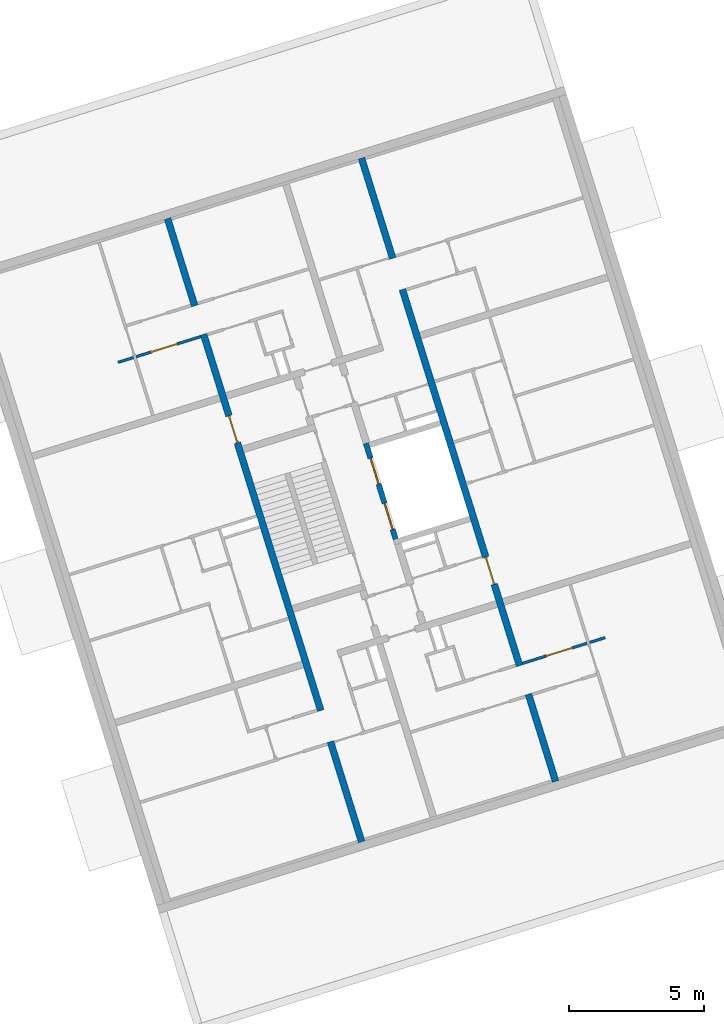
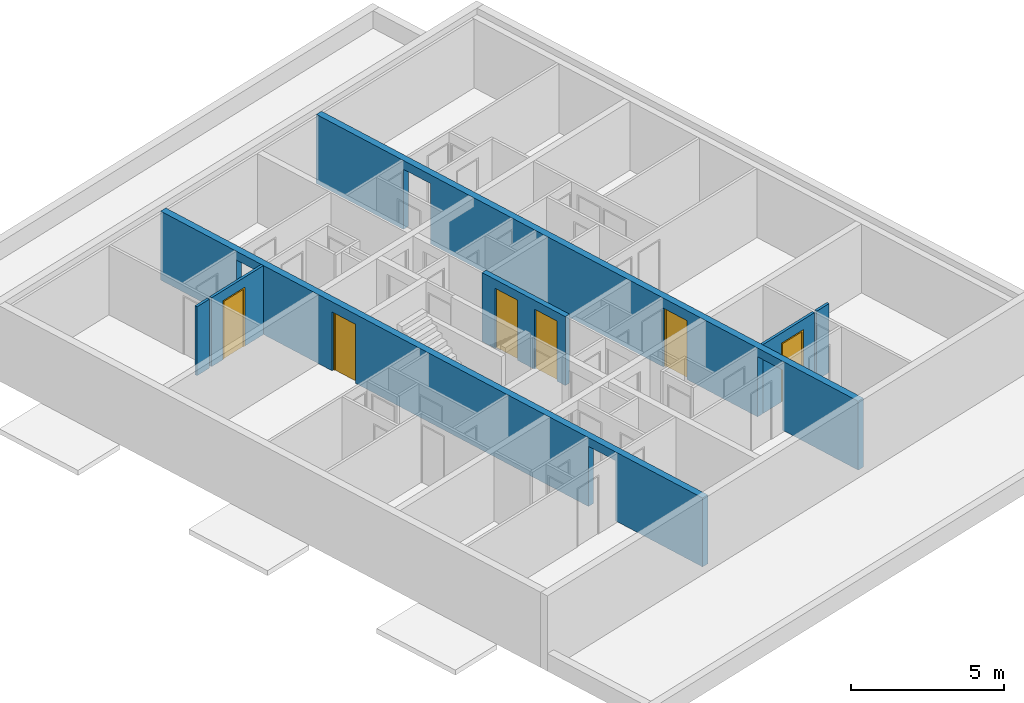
# One storey, part 8 of 9: 6 doors, 5 walls, 12 openings.
"""IFC4 building model written with IfcOpenShell, lengths in metres."""

from ifc_helpers import new_model, entity, si_unit, converted_unit, direction, frame, origin, place, context, subcontext, project, spatial, indexed_curve, outline, extrude, polygons, source, transform, mapped, material, constituent, constituent_set, type_object, type_shapes, element, fill, save


model = new_model("IFC4")

# Units and contexts
model_context = context("Model", 3, precision=1e-05, world=origin(), true_north=direction((6.12323399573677e-17, 1.0)))
body_context = subcontext(model_context, "Body", "Model", "MODEL_VIEW")
ifc_project = project(units=[si_unit("LENGTHUNIT", "METRE"), si_unit("AREAUNIT", "SQUARE_METRE"), converted_unit("PLANEANGLEUNIT", "DEGREE", entity("IfcPlaneAngleMeasure", 0.0174532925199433), si_unit("PLANEANGLEUNIT", "RADIAN"), dimensions=[0, 0, 0, 0, 0, 0, 0]), si_unit("VOLUMEUNIT", "CUBIC_METRE")], contexts=[model_context])

# Site, building, storey
site_placement = place(None, frame((13.1347999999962, 11.9886000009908, 0.0), z_axis=(0.0, 0.0, 1.0), x_axis=(0.954770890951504, 0.297342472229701, 0.0)))
site = spatial("IfcSite", under=ifc_project, at=site_placement, Name="Schiehaven", CompositionType="ELEMENT")
building_placement = place(site_placement, origin())
building = spatial("IfcBuilding", under=site, at=building_placement, Name="VORM huis", CompositionType="ELEMENT")
storey_placement = place(building_placement, frame((0.0, 0.0, 6.9)))
storey = spatial("IfcBuildingStorey", under=building, at=storey_placement, Name="02 tweede verdieping", CompositionType="ELEMENT", Elevation=6.9)

# Wall, openings, door
ifc_material_1 = material(Name="beton_gewapend_ihw", Category="Miscellaneous")
wall_type_1 = type_object("IfcWallType", Name="Basic Wall:28_WA_skelet_wand 250mm_gen", PredefinedType="STANDARD")
wall_1_placement = place(storey_placement, frame((72.5, 5.0, 0.0), z_axis=(0.0, 0.0, 1.0), x_axis=(0.0, 1.0, 0.0)))
wall_1 = element("IfcWall", 1, at=wall_1_placement, inside=storey, type_object=wall_type_1, material=ifc_material_1, Name="Constructieve wand", ObjectType="Wand", PredefinedType="NOTDEFINED", context=body_context, shape_type="Tessellation", body=[
    polygons([(8.67499999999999, -0.125000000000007, 2.34999999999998), (8.67499999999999, -0.125000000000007, 1.08286712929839e-15), (19.0250000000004, -0.125000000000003, 1.08286712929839e-15), (19.0250000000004, -0.125000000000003, 2.4), (20.2250000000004, -0.125000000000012, 2.4), (20.2250000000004, -0.125000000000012, 1.08286712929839e-15), (24.1, -0.125000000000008, 1.08286712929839e-15), (24.1, -0.125000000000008, 2.75), (0.0, -0.125000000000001, 2.75), (1.08286712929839e-15, -0.125000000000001, 1.08286712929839e-15), (3.37500000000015, -0.125000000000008, 1.08286712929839e-15), (3.37500000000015, -0.125000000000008, 2.4), (4.47500000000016, -0.124999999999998, 2.4), (4.47500000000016, -0.124999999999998, 1.08286712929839e-15), (7.62499999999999, -0.125000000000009, 1.08286712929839e-15), (7.62499999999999, -0.125000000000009, 2.34999999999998), (19.0250000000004, 0.124999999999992, 1.08286712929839e-15), (8.675, 0.124999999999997, 1.08286712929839e-15), (8.675, 0.124999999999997, 2.34999999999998), (7.62499999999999, 0.125000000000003, 2.34999999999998), (7.62499999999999, 0.125000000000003, 1.08286712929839e-15), (7.025, 0.124999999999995, 0.0), (6.775, 0.12499999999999, 0.0), (4.47500000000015, 0.124999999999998, 1.08286712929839e-15), (4.47500000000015, 0.124999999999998, 2.4), (3.37500000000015, 0.124999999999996, 2.4), (3.37500000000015, 0.124999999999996, 1.08286712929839e-15), (2.16573425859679e-15, 0.124999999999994, 1.08286712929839e-15), (2.16573425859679e-15, 0.124999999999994, 2.75), (6.775, 0.12499999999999, 2.75), (7.025, 0.124999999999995, 2.75), (24.1, 0.124999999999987, 2.75), (24.1, 0.124999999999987, 1.08286712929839e-15), (20.2250000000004, 0.124999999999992, 1.08286712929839e-15), (20.2250000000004, 0.124999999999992, 2.4), (19.0250000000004, 0.124999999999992, 2.4)], [[[1, 2, 3, 4, 5, 6, 7, 8, 9, 10, 11, 12, 13, 14, 15, 16]], [[17, 18, 19, 20, 21, 22, 23, 24, 25, 26, 27, 28, 29, 30, 31, 32, 33, 34, 35, 36]], [[10, 28, 27, 11]], [[8, 7, 33, 32]], [[9, 8, 32, 31, 30, 29]], [[10, 9, 29, 28]], [[12, 26, 25, 13]], [[26, 12, 11, 27]], [[13, 25, 24, 14]], [[4, 36, 35, 5]], [[36, 4, 3, 17]], [[5, 35, 34, 6]], [[21, 20, 16, 15]], [[19, 18, 2, 1]], [[20, 19, 1, 16]], [[15, 14, 24, 23, 22, 21]], [[3, 2, 18, 17]], [[33, 7, 6, 34]]], closed=True),
])
opening_1_placement = place(wall_1_placement, origin())
element("IfcOpeningElement", 2, at=opening_1_placement, cuts=wall_1, Name="Constructieve wand", PredefinedType="OPENING", context=body_context, shape_type="SweptSolid", body=[
    extrude(outline(indexed_curve([(-1.2, -0.550000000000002), (1.2, -0.550000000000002), (1.2, 0.550000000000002), (-1.2, 0.550000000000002), (-1.2, -0.550000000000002)], self_intersect=False)), frame((3.92500000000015, -0.124999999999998, 1.2), z_axis=(0.0, 1.0, 0.0), x_axis=(0.0, 0.0, -1.0)), (0.0, 0.0, 1.0), 0.249999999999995),
])
opening_2_placement = place(wall_1_placement, origin())
element("IfcOpeningElement", 3, at=opening_2_placement, cuts=wall_1, Name="Constructieve wand", PredefinedType="OPENING", context=body_context, shape_type="SweptSolid", body=[
    extrude(outline(indexed_curve([(-1.2, -0.599999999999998), (1.2, -0.599999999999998), (1.2, 0.599999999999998), (-1.2, 0.599999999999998), (-1.2, -0.599999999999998)], self_intersect=False)), frame((19.6250000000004, -0.125000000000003, 1.2), z_axis=(0.0, 1.0, 0.0), x_axis=(0.0, 0.0, -1.0)), (0.0, 0.0, 1.0), 0.249999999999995),
])
opening_3_placement = place(wall_1_placement, frame((7.62499999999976, -0.124999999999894, 0.0)))
opening_3 = element("IfcOpeningElement", 4, at=opening_3_placement, cuts=wall_1, Name="Binnendeur", PredefinedType="OPENING", context=body_context, shape_type="SweptSolid", body=[
    extrude(outline(indexed_curve([(2.34999999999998, 1.08286712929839e-15), (2.34999999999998, 1.05), (0.0, 1.05), (0.0, 1.08286712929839e-15), (2.34999999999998, 1.08286712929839e-15)], self_intersect=False)), frame((0.0, 0.0, 0.0), z_axis=(0.0, 1.0, 0.0), x_axis=(0.0, 0.0, 1.0)), (0.0, 0.0, 1.0), 0.25),
])
ifc_material_2 = material(Name="PD_a_binnenwandopeningen", Category="Miscellaneous")
ifc_constituent_1 = constituent(ifc_material_2, Name="PD_a_binnenwandopeningen", Category="Miscellaneous")
ifc_material_3 = material(Name="metaal_aluminium_ntb", Category="Miscellaneous")
ifc_constituent_2 = constituent(ifc_material_3, Name="metaal_aluminium_ntb", Category="Miscellaneous")
ifc_constituent_set_1 = constituent_set(constituents=[ifc_constituent_1, ifc_constituent_2])
ifc_constituent_3 = constituent(ifc_material_2, Name="PD_a_binnenwandopeningen", Category="Miscellaneous")
ifc_constituent_4 = constituent(ifc_material_3, Name="Panel", Category="Miscellaneous")
ifc_constituent_set_2 = constituent_set(constituents=[ifc_constituent_3, ifc_constituent_4])
door_type_1 = type_object("IfcDoorType", Name="32_DO_binnendeur enkel:binnendeur", OperationType="REVOLVING", PredefinedType="DOOR", material=ifc_constituent_set_2)
shared_shape_1 = source(origin(), body_context, "Body", "SweptSolid", [
    extrude(outline(indexed_curve([(0.475, -1.16249999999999), (0.525000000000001, -1.16249999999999), (0.525000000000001, 1.18749999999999), (-0.525000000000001, 1.18749999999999), (-0.525000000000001, -1.16249999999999), (-0.475, -1.16249999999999), (-0.475, 1.13749999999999), (0.475, 1.13749999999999), (0.475, -1.16249999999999)], self_intersect=False)), frame((0.525000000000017, 0.174999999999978, 1.16249999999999), z_axis=(0.0, -1.0, 0.0), x_axis=(1.0, 0.0, 0.0)), (0.0, 0.0, 1.0), 0.1),
    extrude(outline(indexed_curve([(-0.475, -0.025), (0.475, -0.025), (0.475, 0.025), (-0.475, 0.025), (-0.475, -0.025)], self_intersect=False)), frame((0.525000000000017, 0.12499999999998, 0.0)), (0.0, 0.0, 1.0), 2.29999999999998),
])
type_shapes(door_type_1, [shared_shape_1])
door_1_placement = place(opening_3_placement, origin())
door_1 = element("IfcDoor", 5, at=door_1_placement, inside=storey, type_object=door_type_1, material=ifc_constituent_set_1, Name="Binnendeur", ObjectType="Deur", OperationType="REVOLVING", OverallHeight=2.34999999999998, OverallWidth=1.05, PredefinedType="DOOR", context=body_context, shape_type="MappedRepresentation", body=[
    mapped(shared_shape_1, transform((0.0, 0.0, 0.0), scale=1.0)),
])
fill(opening_3, door_1)

wall_2_placement = place(storey_placement, frame((65.0, 29.0999999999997, 0.0), z_axis=(0.0, 0.0, 1.0), x_axis=(0.0, -1.0, 0.0)))
wall_2 = element("IfcWall", 6, at=wall_2_placement, inside=storey, type_object=wall_type_1, material=ifc_material_1, Name="Constructieve wand", ObjectType="Wand", PredefinedType="NOTDEFINED", context=body_context, shape_type="Tessellation", body=[
    polygons([(8.67499999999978, -0.125000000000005, 2.34999999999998), (8.67499999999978, -0.125000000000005, 1.08286712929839e-15), (19.0249999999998, -0.125000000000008, 1.08286712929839e-15), (19.0249999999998, -0.125000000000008, 2.4), (20.2249999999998, -0.125000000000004, 2.4), (20.2249999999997, -0.125000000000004, 1.08286712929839e-15), (24.1, -0.125000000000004, 1.08286712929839e-15), (24.1, -0.125000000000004, 2.75), (4.33146851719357e-15, -0.124999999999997, 2.75), (4.33146851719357e-15, -0.124999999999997, 1.08286712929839e-15), (3.37499999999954, -0.125000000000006, 1.08286712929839e-15), (3.37499999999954, -0.125000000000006, 2.4), (4.47499999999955, -0.125000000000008, 2.4), (4.47499999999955, -0.125000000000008, 1.08286712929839e-15), (7.62499999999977, -0.124999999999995, 1.08286712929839e-15), (7.62499999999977, -0.124999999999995, 2.34999999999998), (19.0249999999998, 0.124999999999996, 1.08286712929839e-15), (8.67499999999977, 0.124999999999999, 1.08286712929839e-15), (8.67499999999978, 0.124999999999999, 2.34999999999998), (7.62499999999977, 0.125, 2.34999999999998), (7.62499999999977, 0.125, 1.08286712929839e-15), (7.02500000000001, 0.124999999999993, 0.0), (6.77500000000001, 0.124999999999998, 0.0), (4.47499999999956, 0.124999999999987, 1.08286712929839e-15), (4.47499999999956, 0.124999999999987, 2.4), (3.37499999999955, 0.124999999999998, 2.4), (3.37499999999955, 0.124999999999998, 1.08286712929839e-15), (0.0, 0.124999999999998, 1.08286712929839e-15), (0.0, 0.124999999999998, 2.75), (6.77500000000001, 0.124999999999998, 2.75), (7.02500000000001, 0.124999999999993, 2.75), (24.1, 0.125, 2.75), (24.1, 0.125, 1.08286712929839e-15), (20.2249999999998, 0.125, 1.08286712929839e-15), (20.2249999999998, 0.125, 2.4), (19.0249999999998, 0.124999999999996, 2.4)], [[[1, 2, 3, 4, 5, 6, 7, 8, 9, 10, 11, 12, 13, 14, 15, 16]], [[17, 18, 19, 20, 21, 22, 23, 24, 25, 26, 27, 28, 29, 30, 31, 32, 33, 34, 35, 36]], [[10, 28, 27, 11]], [[8, 7, 33, 32]], [[9, 8, 32, 31, 30, 29]], [[10, 9, 29, 28]], [[12, 26, 25, 13]], [[26, 12, 11, 27]], [[13, 25, 24, 14]], [[4, 36, 35, 5]], [[36, 4, 3, 17]], [[5, 35, 34, 6]], [[21, 20, 16, 15]], [[19, 18, 2, 1]], [[20, 19, 1, 16]], [[15, 14, 24, 23, 22, 21]], [[3, 2, 18, 17]], [[33, 7, 6, 34]]], closed=True),
])
opening_4_placement = place(wall_2_placement, origin())
element("IfcOpeningElement", 7, at=opening_4_placement, cuts=wall_2, Name="Constructieve wand", PredefinedType="OPENING", context=body_context, shape_type="SweptSolid", body=[
    extrude(outline(indexed_curve([(-1.2, -0.550000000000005), (1.2, -0.550000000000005), (1.2, 0.550000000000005), (-1.2, 0.550000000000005), (-1.2, -0.550000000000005)], self_intersect=False)), frame((3.92499999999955, -0.125000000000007, 1.2), z_axis=(0.0, 1.0, 0.0), x_axis=(0.0, 0.0, -1.0)), (0.0, 0.0, 1.0), 0.249999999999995),
])
opening_5_placement = place(wall_2_placement, origin())
element("IfcOpeningElement", 8, at=opening_5_placement, cuts=wall_2, Name="Constructieve wand", PredefinedType="OPENING", context=body_context, shape_type="SweptSolid", body=[
    extrude(outline(indexed_curve([(-1.2, -0.599999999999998), (1.2, -0.599999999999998), (1.2, 0.599999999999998), (-1.2, 0.599999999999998), (-1.2, -0.599999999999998)], self_intersect=False)), frame((19.6249999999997, -0.124999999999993, 1.2), z_axis=(0.0, 1.0, 0.0), x_axis=(0.0, 0.0, -1.0)), (0.0, 0.0, 1.0), 0.249999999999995),
])
opening_6_placement = place(wall_2_placement, frame((7.62499999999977, -0.125000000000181, 0.0)))
opening_6 = element("IfcOpeningElement", 9, at=opening_6_placement, cuts=wall_2, Name="Binnendeur", PredefinedType="OPENING", context=body_context, shape_type="SweptSolid", body=[
    extrude(outline(indexed_curve([(2.34999999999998, 2.56961408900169e-29), (2.34999999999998, 1.05), (0.0, 1.05), (0.0, 2.56961408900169e-29), (2.34999999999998, 2.56961408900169e-29)], self_intersect=False)), frame((0.0, 0.0, 0.0), z_axis=(0.0, 1.0, 0.0), x_axis=(0.0, 0.0, 1.0)), (0.0, 0.0, 1.0), 0.25),
])
ifc_constituent_5 = constituent(ifc_material_2, Name="PD_a_binnenwandopeningen", Category="Miscellaneous")
ifc_constituent_6 = constituent(ifc_material_3, Name="metaal_aluminium_ntb", Category="Miscellaneous")
ifc_constituent_set_3 = constituent_set(constituents=[ifc_constituent_5, ifc_constituent_6])
door_2_placement = place(opening_6_placement, origin())
door_2 = element("IfcDoor", 10, at=door_2_placement, inside=storey, type_object=door_type_1, material=ifc_constituent_set_3, Name="Binnendeur", ObjectType="Deur", OperationType="REVOLVING", OverallHeight=2.34999999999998, OverallWidth=1.05, PredefinedType="DOOR", context=body_context, shape_type="MappedRepresentation", body=[
    mapped(shared_shape_1, transform((0.0, 0.0, 0.0), scale=1.0)),
])
fill(opening_6, door_2)

# Wall, openings, doors
ifc_material_4 = material(Name="beton_gewapend_prefab-element", Category="Miscellaneous")
wall_type_2 = type_object("IfcWallType", Name="Basic Wall:28_WA_skelet_wand 200mm_gen", PredefinedType="STANDARD")
wall_3_placement = place(storey_placement, frame((69.5249999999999, 15.2999999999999, 0.0), z_axis=(0.0, 0.0, 1.0), x_axis=(0.0, 1.0, 0.0)))
wall_3 = element("IfcWall", 11, at=wall_3_placement, inside=storey, type_object=wall_type_2, material=ifc_material_4, Name="Constructieve wand", ObjectType="Wand", PredefinedType="NOTDEFINED", context=body_context, shape_type="Tessellation", body=[
    polygons([(3.70000000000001, -0.0999999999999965, 2.75), (3.50000000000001, -0.0999999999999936, 2.75), (2.16573425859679e-15, -0.0999999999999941, 2.75), (2.16573425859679e-15, -0.0999999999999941, 1.08286712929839e-15), (0.3749999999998, -0.0999999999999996, 1.08286712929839e-15), (0.3749999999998, -0.0999999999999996, 2.39999999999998), (1.3749999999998, -0.099999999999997, 2.39999999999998), (1.3749999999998, -0.099999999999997, 1.08286712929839e-15), (2.1249999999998, -0.100000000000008, 1.08286712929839e-15), (2.1249999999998, -0.0999999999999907, 2.39999999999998), (3.1249999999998, -0.0999999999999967, 2.39999999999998), (3.1249999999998, -0.0999999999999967, 1.08286712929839e-15), (3.50000000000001, -0.0999999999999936, 0.0), (3.70000000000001, -0.0999999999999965, 1.08286712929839e-15), (4.33146851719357e-15, 0.100000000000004, 2.75), (3.70000000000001, 0.0999999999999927, 2.75), (3.70000000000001, 0.0999999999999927, 1.08286712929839e-15), (3.1249999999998, 0.100000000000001, 1.08286712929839e-15), (3.1249999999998, 0.100000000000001, 2.39999999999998), (2.1249999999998, 0.0999999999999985, 2.39999999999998), (2.1249999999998, 0.0999999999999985, 1.08286712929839e-15), (1.3749999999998, 0.10000000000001, 1.08286712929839e-15), (1.3749999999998, 0.10000000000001, 2.39999999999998), (0.374999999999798, 0.0999999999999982, 2.39999999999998), (0.374999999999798, 0.0999999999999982, 1.08286712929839e-15), (4.33146851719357e-15, 0.100000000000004, 1.08286712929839e-15)], [[[1, 2, 3, 4, 5, 6, 7, 8, 9, 10, 11, 12, 13, 14]], [[15, 16, 17, 18, 19, 20, 21, 22, 23, 24, 25, 26]], [[5, 4, 26, 25]], [[3, 2, 1, 16, 15]], [[7, 23, 22, 8]], [[24, 6, 5, 25]], [[23, 7, 6, 24]], [[11, 19, 18, 12]], [[20, 10, 9, 21]], [[19, 11, 10, 20]], [[1, 14, 17, 16]], [[4, 3, 15, 26]], [[8, 22, 21, 9]], [[17, 14, 13, 12, 18]]], closed=True),
])
opening_7_placement = place(wall_3_placement, frame((-15.2999999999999, 69.5249999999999, 0.0), z_axis=(0.0, 0.0, 1.0), x_axis=(0.0, -1.0, 0.0)))
opening_7 = element("IfcOpeningElement", 12, at=opening_7_placement, cuts=wall_3, Name="Brandweerlift", PredefinedType="OPENING", context=body_context, shape_type="SweptSolid", body=[
    extrude(outline(indexed_curve([(-1.19999999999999, -0.500000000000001), (1.19999999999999, -0.500000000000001), (1.19999999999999, 0.499999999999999), (-1.19999999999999, 0.499999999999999), (-1.19999999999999, -0.500000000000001)], self_intersect=False)), frame((70.0126380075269, 16.1749999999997, 1.19999999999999), z_axis=(-1.0, 0.0, 0.0), x_axis=(0.0, 0.0, -1.0)), (0.0, 0.0, 1.0), 0.756310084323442),
])
opening_8_placement = place(wall_3_placement, frame((-15.2999999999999, 69.5249999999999, 0.0), z_axis=(0.0, 0.0, 1.0), x_axis=(0.0, -1.0, 0.0)))
opening_8 = element("IfcOpeningElement", 13, at=opening_8_placement, cuts=wall_3, Name="Brandweerlift", PredefinedType="OPENING", context=body_context, shape_type="SweptSolid", body=[
    extrude(outline(indexed_curve([(-1.19999999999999, -0.500000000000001), (1.19999999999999, -0.500000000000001), (1.19999999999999, 0.499999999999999), (-1.19999999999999, 0.499999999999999), (-1.19999999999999, -0.500000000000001)], self_intersect=False)), frame((70.0126380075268, 17.9249999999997, 1.19999999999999), z_axis=(-1.0, 0.0, 0.0), x_axis=(0.0, 0.0, -1.0)), (0.0, 0.0, 1.0), 0.756310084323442),
])
door_type_2 = type_object("IfcDoorType", Name="66_WI_liftdeur:brandweerlift - tweezijdig toegankelijk", OperationType="NOTDEFINED", PredefinedType="DOOR", material=ifc_material_3)
shared_shape_2 = source(origin(), body_context, "Body", "SweptSolid", [
    extrude(outline(indexed_curve([(-0.25, -0.0250000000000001), (0.25, -0.0249999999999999), (0.25, 0.0250000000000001), (-0.25, 0.0249999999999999), (-0.25, -0.0250000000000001)], self_intersect=False)), frame((0.750000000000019, -0.28763800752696, 0.0)), (0.0, 0.0, 1.0), 2.39999999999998),
    extrude(outline(indexed_curve([(-0.25, -0.0250000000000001), (0.25, -0.0249999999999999), (0.25, 0.0250000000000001), (-0.25, 0.0249999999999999), (-0.25, -0.0250000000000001)], self_intersect=False)), frame((0.250000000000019, -0.287638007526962, 0.0)), (0.0, 0.0, 1.0), 2.39999999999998),
])
type_shapes(door_type_2, [shared_shape_2])
door_3_placement = place(opening_7_placement, frame((69.2373619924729, 15.6749999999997, 0.0), z_axis=(0.0, 0.0, 1.0), x_axis=(0.0, 1.0, 0.0)))
door_3 = element("IfcDoor", 14, at=door_3_placement, inside=storey, type_object=door_type_2, material=ifc_material_3, Name="Brandweerlift", ObjectType="Transport", OperationType="NOTDEFINED", OverallHeight=2.39999999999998, OverallWidth=1.0, PredefinedType="DOOR", context=body_context, shape_type="MappedRepresentation", body=[
    mapped(shared_shape_2, transform((0.0, 0.0, 0.0), scale=1.0)),
])
fill(opening_7, door_3)
door_4_placement = place(opening_8_placement, frame((69.2373619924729, 17.4249999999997, 0.0), z_axis=(0.0, 0.0, 1.0), x_axis=(0.0, 1.0, 0.0)))
door_4 = element("IfcDoor", 15, at=door_4_placement, inside=storey, type_object=door_type_2, material=ifc_material_3, Name="Brandweerlift", ObjectType="Transport", OperationType="NOTDEFINED", OverallHeight=2.39999999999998, OverallWidth=1.0, PredefinedType="DOOR", context=body_context, shape_type="MappedRepresentation", body=[
    mapped(shared_shape_2, transform((0.0, 0.0, 0.0), scale=1.0)),
])
fill(opening_8, door_4)

# Wall, openings, door
ifc_material_5 = material(Name="ntb_ntb_ntb", Category="Miscellaneous")
wall_type_3 = type_object("IfcWallType", Name="Basic Wall:22_WA_afbouw_binnenwand 100mm_gen", PredefinedType="STANDARD")
wall_4_placement = place(storey_placement, frame((72.625, 9.52499999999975, 0.0)))
wall_4 = element("IfcWall", 16, at=wall_4_placement, inside=storey, type_object=wall_type_3, material=ifc_material_5, Name="Binnenwand", ObjectType="Wand", PredefinedType="NOTDEFINED", context=body_context, shape_type="Tessellation", body=[
    polygons([(-5.76685161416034e-15, -0.0500000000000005, 2.75), (-5.76685161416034e-15, -0.0500000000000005, 1.08286712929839e-15), (0.899999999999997, -0.0500000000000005, 1.08286712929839e-15), (0.899999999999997, -0.0500000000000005, 2.34999999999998), (1.95, -0.0500000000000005, 2.34999999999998), (1.95, -0.0500000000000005, 1.08286712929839e-15), (2.50000000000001, -0.0500000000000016, 1.08286712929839e-15), (2.50000000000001, -0.0500000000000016, 2.75), (-4.09055660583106e-15, 0.0499999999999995, 1.08286712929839e-15), (0.899999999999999, 0.0500000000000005, 1.08286712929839e-15), (-4.09055660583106e-15, 0.0499999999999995, 2.75), (1.95, 0.0500000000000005, 2.34999999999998), (1.95, 0.0500000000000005, 1.08286712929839e-15), (0.899999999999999, 0.0500000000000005, 2.34999999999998), (2.50000000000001, 0.0499999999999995, 1.08286712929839e-15), (2.50000000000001, 0.0499999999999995, 2.75)], [[[1, 2, 3, 4, 5, 6, 7, 8]], [[2, 9, 10, 3]], [[2, 1, 11, 9]], [[6, 5, 12, 13]], [[4, 3, 10, 14]], [[5, 4, 14, 12]], [[8, 7, 15, 16]], [[11, 1, 8, 16]], [[6, 13, 15, 7]], [[9, 11, 16, 15, 13, 12, 14, 10]]], closed=True),
    polygons([(3.20000000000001, 0.0499999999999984, 2.75), (3.20000000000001, 0.0499999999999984, 1.08286712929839e-15), (2.60000000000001, 0.0499999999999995, 1.08286712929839e-15), (2.60000000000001, 0.0499999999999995, 2.75), (3.20000000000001, -0.0500000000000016, 2.75), (3.20000000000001, -0.0500000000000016, 1.08286712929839e-15), (2.60000000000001, -0.0500000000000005, 2.75), (2.60000000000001, -0.0500000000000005, 1.08286712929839e-15)], [[[1, 2, 3, 4]], [[5, 6, 2, 1]], [[5, 1, 4, 7]], [[8, 7, 4, 3]], [[2, 6, 8, 3]], [[6, 5, 7, 8]]], closed=True),
])
opening_9_placement = place(storey_placement, frame((72.625, 9.52499999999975, 0.0)))
element("IfcOpeningElement", 17, at=opening_9_placement, cuts=wall_4, Name="Binnenwand:1", PredefinedType="OPENING", context=body_context, shape_type="SweptSolid", body=[
    extrude(outline(indexed_curve([(-1.375, -0.0500000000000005), (1.375, -0.0500000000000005), (1.375, 0.0500000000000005), (-1.375, 0.0499999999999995), (-1.375, -0.0500000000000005)], self_intersect=False)), frame((2.50000000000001, 0.0, 1.375), z_axis=(1.0, 0.0, 0.0), x_axis=(0.0, 0.0, -1.0)), (0.0, 0.0, 1.0), 0.100000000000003),
])
opening_10_placement = place(wall_4_placement, frame((1.95, 0.0500000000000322, 0.0)))
opening_10 = element("IfcOpeningElement", 18, at=opening_10_placement, cuts=wall_4, Name="Binnendeur", PredefinedType="OPENING", context=body_context, shape_type="SweptSolid", body=[
    extrude(outline(indexed_curve([(2.34999999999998, 4.67982478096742e-30), (2.34999999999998, 1.05), (0.0, 1.05), (0.0, 4.67982478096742e-30), (2.34999999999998, 4.67982478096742e-30)], self_intersect=False)), frame((0.0, 0.0, 0.0), z_axis=(0.0, -1.0, 0.0), x_axis=(0.0, 0.0, 1.0)), (0.0, 0.0, 1.0), 0.1),
])
ifc_constituent_7 = constituent(ifc_material_2, Name="PD_a_binnenwandopeningen", Category="Miscellaneous")
ifc_constituent_8 = constituent(ifc_material_3, Name="metaal_aluminium_ntb", Category="Miscellaneous")
ifc_constituent_set_4 = constituent_set(constituents=[ifc_constituent_7, ifc_constituent_8])
ifc_constituent_9 = constituent(ifc_material_2, Name="PD_a_binnenwandopeningen", Category="Miscellaneous")
ifc_constituent_10 = constituent(ifc_material_3, Name="Panel", Category="Miscellaneous")
ifc_constituent_set_5 = constituent_set(constituents=[ifc_constituent_9, ifc_constituent_10])
door_type_3 = type_object("IfcDoorType", Name="32_DO_binnendeur enkel:binnendeur", OperationType="REVOLVING", PredefinedType="DOOR", material=ifc_constituent_set_5)
shared_shape_3 = source(origin(), body_context, "Body", "SweptSolid", [
    extrude(outline(indexed_curve([(0.475, -1.16249999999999), (0.525, -1.16249999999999), (0.525, 1.18749999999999), (-0.525, 1.18749999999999), (-0.525, -1.16249999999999), (-0.475, -1.16249999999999), (-0.475, 1.13749999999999), (0.475, 1.13749999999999), (0.475, -1.16249999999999)], self_intersect=False)), frame((0.525000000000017, 0.100000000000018, 1.16249999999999), z_axis=(0.0, -1.0, 0.0), x_axis=(1.0, 0.0, 0.0)), (0.0, 0.0, 1.0), 0.1),
    extrude(outline(indexed_curve([(-0.475, -0.025), (0.475, -0.025), (0.475, 0.025), (-0.475, 0.025), (-0.475, -0.025)], self_intersect=False)), frame((0.525000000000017, 0.0499999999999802, 0.0)), (0.0, 0.0, 1.0), 2.29999999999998),
])
type_shapes(door_type_3, [shared_shape_3])
door_5_placement = place(opening_10_placement, frame((0.0, 0.0, 0.0), z_axis=(0.0, 0.0, 1.0), x_axis=(-1.0, 0.0, 0.0)))
door_5 = element("IfcDoor", 19, at=door_5_placement, inside=storey, type_object=door_type_3, material=ifc_constituent_set_4, Name="Binnendeur", ObjectType="Deur", OperationType="REVOLVING", OverallHeight=2.34999999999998, OverallWidth=1.05, PredefinedType="DOOR", context=body_context, shape_type="MappedRepresentation", body=[
    mapped(shared_shape_3, transform((0.0, 0.0, 0.0), scale=1.0)),
])
fill(opening_10, door_5)

wall_5_placement = place(storey_placement, frame((64.8749999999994, 24.5750000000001, 0.0), z_axis=(0.0, 0.0, 1.0), x_axis=(-1.0, 0.0, 0.0)))
wall_5 = element("IfcWall", 20, at=wall_5_placement, inside=storey, type_object=wall_type_3, material=ifc_material_5, Name="Binnenwand", ObjectType="Wand", PredefinedType="NOTDEFINED", context=body_context, shape_type="Tessellation", body=[
    polygons([(1.78530300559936e-16, -0.0499999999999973, 2.75), (1.78530300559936e-16, -0.0499999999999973, 1.08286712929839e-15), (0.899999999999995, -0.0499999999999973, 1.08286712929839e-15), (0.899999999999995, -0.0499999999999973, 2.34999999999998), (1.95, -0.049999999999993, 2.34999999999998), (1.95, -0.049999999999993, 1.08286712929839e-15), (2.49999999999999, -0.049999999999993, 1.08286712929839e-15), (2.49999999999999, -0.049999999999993, 2.75), (1.69052121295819e-15, 0.0500000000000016, 1.08286712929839e-15), (0.899999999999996, 0.0500000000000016, 1.08286712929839e-15), (1.69052121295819e-15, 0.0500000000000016, 2.75), (1.95, 0.050000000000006, 2.34999999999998), (1.95, 0.050000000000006, 1.08286712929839e-15), (0.899999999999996, 0.0500000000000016, 2.34999999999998), (2.5, 0.050000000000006, 1.08286712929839e-15), (2.5, 0.050000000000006, 2.75)], [[[1, 2, 3, 4, 5, 6, 7, 8]], [[2, 9, 10, 3]], [[2, 1, 11, 9]], [[6, 5, 12, 13]], [[4, 3, 10, 14]], [[5, 4, 14, 12]], [[8, 7, 15, 16]], [[11, 1, 8, 16]], [[6, 13, 15, 7]], [[9, 11, 16, 15, 13, 12, 14, 10]]], closed=True),
    polygons([(3.2, 0.0500000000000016, 2.75), (3.2, 0.0500000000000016, 1.08286712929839e-15), (2.60000000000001, 0.0500000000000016, 1.08286712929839e-15), (2.60000000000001, 0.0500000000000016, 2.75), (3.2, -0.0499999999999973, 2.75), (3.2, -0.0499999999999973, 1.08286712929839e-15), (2.60000000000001, -0.0499999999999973, 2.75), (2.60000000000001, -0.0499999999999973, 1.08286712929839e-15)], [[[1, 2, 3, 4]], [[5, 6, 2, 1]], [[5, 1, 4, 7]], [[8, 7, 4, 3]], [[2, 6, 8, 3]], [[6, 5, 7, 8]]], closed=True),
])
opening_11_placement = place(storey_placement, frame((64.8749999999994, 24.5750000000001, 0.0), z_axis=(0.0, 0.0, 1.0), x_axis=(-1.0, 0.0, 0.0)))
element("IfcOpeningElement", 21, at=opening_11_placement, cuts=wall_5, Name="Binnenwand:1", PredefinedType="OPENING", context=body_context, shape_type="SweptSolid", body=[
    extrude(outline(indexed_curve([(-1.375, -0.0500000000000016), (1.375, -0.0500000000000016), (1.375, 0.0499999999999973), (-1.375, 0.0499999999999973), (-1.375, -0.0500000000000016)], self_intersect=False)), frame((2.60000000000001, 0.0, 1.375), z_axis=(-1.0, 0.0, 0.0), x_axis=(0.0, 0.0, 1.0)), (0.0, 0.0, 1.0), 0.100000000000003),
])
opening_12_placement = place(wall_5_placement, frame((1.94999999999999, 0.0500000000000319, 0.0)))
opening_12 = element("IfcOpeningElement", 22, at=opening_12_placement, cuts=wall_5, Name="Binnendeur", PredefinedType="OPENING", context=body_context, shape_type="SweptSolid", body=[
    extrude(outline(indexed_curve([(2.34999999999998, 0.0), (2.34999999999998, 1.05), (0.0, 1.05), (0.0, 0.0), (2.34999999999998, 0.0)], self_intersect=False)), frame((0.0, 0.0, 0.0), z_axis=(0.0, -1.0, 0.0), x_axis=(0.0, 0.0, 1.0)), (0.0, 0.0, 1.0), 0.1),
])
ifc_constituent_11 = constituent(ifc_material_2, Name="PD_a_binnenwandopeningen", Category="Miscellaneous")
ifc_constituent_12 = constituent(ifc_material_3, Name="metaal_aluminium_ntb", Category="Miscellaneous")
ifc_constituent_set_6 = constituent_set(constituents=[ifc_constituent_11, ifc_constituent_12])
door_6_placement = place(opening_12_placement, frame((0.0, 0.0, 0.0), z_axis=(0.0, 0.0, 1.0), x_axis=(-1.0, 0.0, 0.0)))
door_6 = element("IfcDoor", 23, at=door_6_placement, inside=storey, type_object=door_type_3, material=ifc_constituent_set_6, Name="Binnendeur", ObjectType="Deur", OperationType="REVOLVING", OverallHeight=2.34999999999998, OverallWidth=1.05, PredefinedType="DOOR", context=body_context, shape_type="MappedRepresentation", body=[
    mapped(shared_shape_3, transform((0.0, 0.0, 0.0), scale=1.0)),
])
fill(opening_12, door_6)

save(model, "model.ifc")
